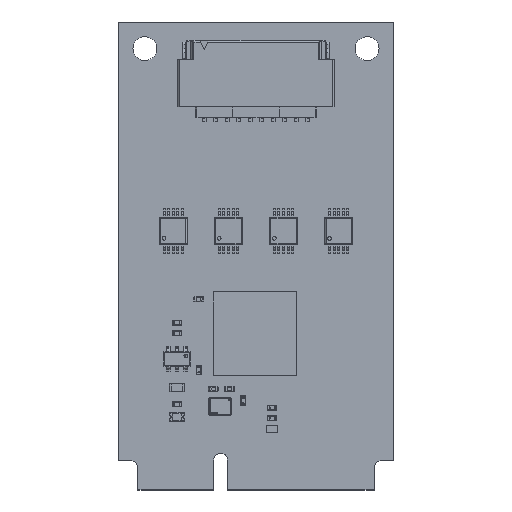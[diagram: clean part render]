
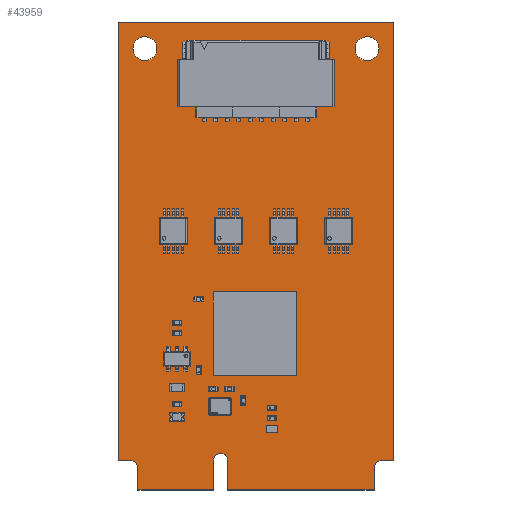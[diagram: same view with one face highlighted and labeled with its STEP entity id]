
A CAD part, top view. The second image highlights one B-rep face of the part: STEP entity #43959.
In plain terms, the highlighted planar face has unit normal (0, 0, 1).
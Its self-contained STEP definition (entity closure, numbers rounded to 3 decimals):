
#43432 = VERTEX_POINT('',#43433);
#43433 = CARTESIAN_POINT('',(1.35,3.2,0.));
#43439 = EDGE_CURVE('',#43432,#43440,#43442,.T.);
#43440 = VERTEX_POINT('',#43441);
#43441 = CARTESIAN_POINT('',(2.15,2.4,0.));
#43442 = CIRCLE('',#43443,0.799);
#43443 = AXIS2_PLACEMENT_3D('',#43444,#43445,#43446);
#43444 = CARTESIAN_POINT('',(1.351,2.401,0.));
#43445 = DIRECTION('',(0.,0.,-1.));
#43446 = DIRECTION('',(-0.001,1.,0.));
#43472 = EDGE_CURVE('',#43440,#43473,#43475,.T.);
#43473 = VERTEX_POINT('',#43474);
#43474 = CARTESIAN_POINT('',(2.15,0.,0.));
#43475 = LINE('',#43476,#43477);
#43476 = CARTESIAN_POINT('',(2.15,2.4,0.));
#43477 = VECTOR('',#43478,1.);
#43478 = DIRECTION('',(0.,-1.,0.));
#43503 = EDGE_CURVE('',#43473,#43504,#43506,.T.);
#43504 = VERTEX_POINT('',#43505);
#43505 = CARTESIAN_POINT('',(10.4,0.,0.));
#43506 = LINE('',#43507,#43508);
#43507 = CARTESIAN_POINT('',(2.15,0.,0.));
#43508 = VECTOR('',#43509,1.);
#43509 = DIRECTION('',(1.,0.,0.));
#43534 = EDGE_CURVE('',#43504,#43535,#43537,.T.);
#43535 = VERTEX_POINT('',#43536);
#43536 = CARTESIAN_POINT('',(10.4,3.25,0.));
#43537 = LINE('',#43538,#43539);
#43538 = CARTESIAN_POINT('',(10.4,0.,0.));
#43539 = VECTOR('',#43540,1.);
#43540 = DIRECTION('',(0.,1.,0.));
#43565 = EDGE_CURVE('',#43535,#43566,#43568,.T.);
#43566 = VERTEX_POINT('',#43567);
#43567 = CARTESIAN_POINT('',(11.9,3.25,0.));
#43568 = CIRCLE('',#43569,0.75);
#43569 = AXIS2_PLACEMENT_3D('',#43570,#43571,#43572);
#43570 = CARTESIAN_POINT('',(11.15,3.25,0.));
#43571 = DIRECTION('',(0.,0.,-1.));
#43572 = DIRECTION('',(-1.,0.,0.));
#43598 = EDGE_CURVE('',#43566,#43599,#43601,.T.);
#43599 = VERTEX_POINT('',#43600);
#43600 = CARTESIAN_POINT('',(11.9,0.,0.));
#43601 = LINE('',#43602,#43603);
#43602 = CARTESIAN_POINT('',(11.9,3.25,0.));
#43603 = VECTOR('',#43604,1.);
#43604 = DIRECTION('',(0.,-1.,0.));
#43629 = EDGE_CURVE('',#43599,#43630,#43632,.T.);
#43630 = VERTEX_POINT('',#43631);
#43631 = CARTESIAN_POINT('',(27.85,0.,0.));
#43632 = LINE('',#43633,#43634);
#43633 = CARTESIAN_POINT('',(11.9,0.,0.));
#43634 = VECTOR('',#43635,1.);
#43635 = DIRECTION('',(1.,0.,0.));
#43660 = EDGE_CURVE('',#43630,#43661,#43663,.T.);
#43661 = VERTEX_POINT('',#43662);
#43662 = CARTESIAN_POINT('',(27.85,2.4,0.));
#43663 = LINE('',#43664,#43665);
#43664 = CARTESIAN_POINT('',(27.85,0.,0.));
#43665 = VECTOR('',#43666,1.);
#43666 = DIRECTION('',(0.,1.,0.));
#43691 = EDGE_CURVE('',#43661,#43692,#43694,.T.);
#43692 = VERTEX_POINT('',#43693);
#43693 = CARTESIAN_POINT('',(28.65,3.2,0.));
#43694 = CIRCLE('',#43695,0.799);
#43695 = AXIS2_PLACEMENT_3D('',#43696,#43697,#43698);
#43696 = CARTESIAN_POINT('',(28.649,2.401,0.));
#43697 = DIRECTION('',(0.,0.,-1.));
#43698 = DIRECTION('',(-1.,-0.001,0.));
#43724 = EDGE_CURVE('',#43692,#43725,#43727,.T.);
#43725 = VERTEX_POINT('',#43726);
#43726 = CARTESIAN_POINT('',(30.,3.2,0.));
#43727 = LINE('',#43728,#43729);
#43728 = CARTESIAN_POINT('',(28.65,3.2,0.));
#43729 = VECTOR('',#43730,1.);
#43730 = DIRECTION('',(1.,0.,0.));
#43755 = EDGE_CURVE('',#43725,#43756,#43758,.T.);
#43756 = VERTEX_POINT('',#43757);
#43757 = CARTESIAN_POINT('',(30.,50.95,0.));
#43758 = LINE('',#43759,#43760);
#43759 = CARTESIAN_POINT('',(30.,3.2,0.));
#43760 = VECTOR('',#43761,1.);
#43761 = DIRECTION('',(0.,1.,0.));
#43786 = EDGE_CURVE('',#43756,#43787,#43789,.T.);
#43787 = VERTEX_POINT('',#43788);
#43788 = CARTESIAN_POINT('',(0.,50.95,0.));
#43789 = LINE('',#43790,#43791);
#43790 = CARTESIAN_POINT('',(30.,50.95,0.));
#43791 = VECTOR('',#43792,1.);
#43792 = DIRECTION('',(-1.,0.,0.));
#43817 = EDGE_CURVE('',#43787,#43818,#43820,.T.);
#43818 = VERTEX_POINT('',#43819);
#43819 = CARTESIAN_POINT('',(0.,3.2,0.));
#43820 = LINE('',#43821,#43822);
#43821 = CARTESIAN_POINT('',(0.,50.95,0.));
#43822 = VECTOR('',#43823,1.);
#43823 = DIRECTION('',(0.,-1.,0.));
#43848 = EDGE_CURVE('',#43818,#43432,#43849,.T.);
#43849 = LINE('',#43850,#43851);
#43850 = CARTESIAN_POINT('',(0.,3.2,0.));
#43851 = VECTOR('',#43852,1.);
#43852 = DIRECTION('',(1.,0.,0.));
#43872 = VERTEX_POINT('',#43873);
#43873 = CARTESIAN_POINT('',(4.2,48.05,0.));
#43879 = EDGE_CURVE('',#43872,#43872,#43880,.T.);
#43880 = CIRCLE('',#43881,1.3);
#43881 = AXIS2_PLACEMENT_3D('',#43882,#43883,#43884);
#43882 = CARTESIAN_POINT('',(2.9,48.05,0.));
#43883 = DIRECTION('',(0.,0.,1.));
#43884 = DIRECTION('',(1.,0.,0.));
#43905 = VERTEX_POINT('',#43906);
#43906 = CARTESIAN_POINT('',(28.4,48.05,0.));
#43912 = EDGE_CURVE('',#43905,#43905,#43913,.T.);
#43913 = CIRCLE('',#43914,1.3);
#43914 = AXIS2_PLACEMENT_3D('',#43915,#43916,#43917);
#43915 = CARTESIAN_POINT('',(27.1,48.05,0.));
#43916 = DIRECTION('',(0.,0.,1.));
#43917 = DIRECTION('',(1.,0.,0.));
#43959 = ADVANCED_FACE('',(#43960,#43976,#43979),#43982,.T.);
#43960 = FACE_BOUND('',#43961,.T.);
#43961 = EDGE_LOOP('',(#43962,#43963,#43964,#43965,#43966,#43967,#43968,
    #43969,#43970,#43971,#43972,#43973,#43974,#43975));
#43962 = ORIENTED_EDGE('',*,*,#43439,.T.);
#43963 = ORIENTED_EDGE('',*,*,#43472,.T.);
#43964 = ORIENTED_EDGE('',*,*,#43503,.T.);
#43965 = ORIENTED_EDGE('',*,*,#43534,.T.);
#43966 = ORIENTED_EDGE('',*,*,#43565,.T.);
#43967 = ORIENTED_EDGE('',*,*,#43598,.T.);
#43968 = ORIENTED_EDGE('',*,*,#43629,.T.);
#43969 = ORIENTED_EDGE('',*,*,#43660,.T.);
#43970 = ORIENTED_EDGE('',*,*,#43691,.T.);
#43971 = ORIENTED_EDGE('',*,*,#43724,.T.);
#43972 = ORIENTED_EDGE('',*,*,#43755,.T.);
#43973 = ORIENTED_EDGE('',*,*,#43786,.T.);
#43974 = ORIENTED_EDGE('',*,*,#43817,.T.);
#43975 = ORIENTED_EDGE('',*,*,#43848,.T.);
#43976 = FACE_BOUND('',#43977,.T.);
#43977 = EDGE_LOOP('',(#43978));
#43978 = ORIENTED_EDGE('',*,*,#43879,.F.);
#43979 = FACE_BOUND('',#43980,.T.);
#43980 = EDGE_LOOP('',(#43981));
#43981 = ORIENTED_EDGE('',*,*,#43912,.F.);
#43982 = PLANE('',#43983);
#43983 = AXIS2_PLACEMENT_3D('',#43984,#43985,#43986);
#43984 = CARTESIAN_POINT('',(1.35,3.2,0.));
#43985 = DIRECTION('',(0.,0.,1.));
#43986 = DIRECTION('',(1.,0.,0.));
